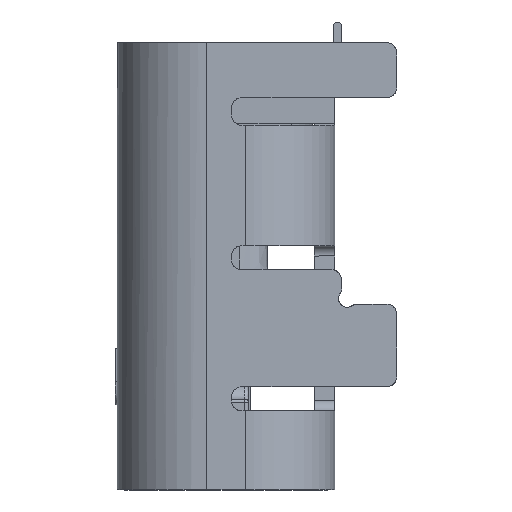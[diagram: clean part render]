
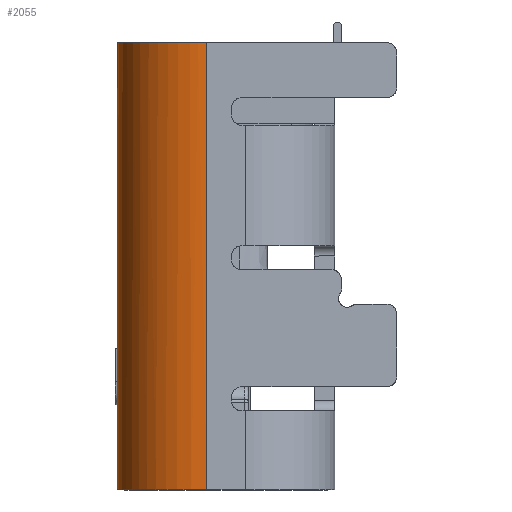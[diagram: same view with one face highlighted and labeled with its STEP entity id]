
A CAD part, left-side view. The second image highlights one B-rep face of the part: STEP entity #2055.
In plain terms, the highlighted free-form (B-spline) face has degree [1, 3] with [2, 4] control points.
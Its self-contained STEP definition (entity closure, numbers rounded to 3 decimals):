
#254 = EDGE_LOOP ( 'NONE', ( #20061, #13286, #22936, #21051 ) ) ;
#849 = EDGE_CURVE ( 'NONE', #16480, #18008, #27991, .T. ) ;
#2055 = ADVANCED_FACE ( 'NONE', ( #26947 ), #8275, .F. ) ;
#2390 = CARTESIAN_POINT ( 'NONE',  ( -1.744, 7.076, -1.098 ) ) ;
#4304 = DIRECTION ( 'NONE',  ( 0., 0., -1. ) ) ;
#4670 = CARTESIAN_POINT ( 'NONE',  ( -0.444, 8.376, -1.098 ) ) ;
#4983 = CARTESIAN_POINT ( 'NONE',  ( -0.444, 8.376, -7.598 ) ) ;
#6619 = CARTESIAN_POINT ( 'NONE',  ( -0.444, 8.376, -1.098 ) ) ;
#6715 = LINE ( 'NONE', #26425, #19379 ) ;
#7122 = CARTESIAN_POINT ( 'NONE',  ( -1.613, 7.652, -7.598 ) ) ;
#7275 = CARTESIAN_POINT ( 'NONE',  ( -1.573, 7.727, -7.598 ) ) ;
#7431 = CARTESIAN_POINT ( 'NONE',  ( -0.444, 8.376, -7.598 ) ) ;
#8275 =( BOUNDED_SURFACE ( )  B_SPLINE_SURFACE ( 1, 3, ( 
 ( #2390, #31646, #29217, #4670 ),
 ( #17103, #24369, #12089, #4983 ) ),
 .UNSPECIFIED., .F., .F., .F. ) 
 B_SPLINE_SURFACE_WITH_KNOTS ( ( 2, 2 ),
 ( 4, 4 ),
 ( 0., 1. ),
 ( 0., 1. ),
 .UNSPECIFIED. ) 
 GEOMETRIC_REPRESENTATION_ITEM ( )  RATIONAL_B_SPLINE_SURFACE ( (
 ( 1., 0.805, 0.805, 1.),
 ( 1., 0.805, 0.805, 1.) ) ) 
 REPRESENTATION_ITEM ( '' )  SURFACE ( )  );
#9074 = CARTESIAN_POINT ( 'NONE',  ( -1.483, 7.876, -1.098 ) ) ;
#9107 = CARTESIAN_POINT ( 'NONE',  ( -1.744, 7.076, -7.598 ) ) ;
#9386 = CARTESIAN_POINT ( 'NONE',  ( -0.784, 8.342, -1.098 ) ) ;
#9851 = CARTESIAN_POINT ( 'NONE',  ( -0.616, 8.376, -7.598 ) ) ;
#11512 = CARTESIAN_POINT ( 'NONE',  ( -1.02, 8.245, -1.098 ) ) ;
#12089 = CARTESIAN_POINT ( 'NONE',  ( -1.206, 8.376, -7.598 ) ) ;
#12928 = CARTESIAN_POINT ( 'NONE',  ( -1.71, 7.418, -1.098 ) ) ;
#13286 = ORIENTED_EDGE ( 'NONE', *, *, #25084, .F. ) ;
#14552 = CARTESIAN_POINT ( 'NONE',  ( -1.479, 7.868, -7.598 ) ) ;
#16480 = VERTEX_POINT ( 'NONE', #26863 ) ;
#17103 = CARTESIAN_POINT ( 'NONE',  ( -1.744, 7.076, -7.598 ) ) ;
#17300 = CARTESIAN_POINT ( 'NONE',  ( -0.787, 8.342, -7.598 ) ) ;
#17304 = CARTESIAN_POINT ( 'NONE',  ( -1.744, 7.076, -1.098 ) ) ;
#18008 = VERTEX_POINT ( 'NONE', #28049 ) ;
#19258 = CARTESIAN_POINT ( 'NONE',  ( -1.095, 8.205, -1.098 ) ) ;
#19379 = VECTOR ( 'NONE', #4304, 1000. ) ;
#19407 = CARTESIAN_POINT ( 'NONE',  ( -1.099, 8.212, -7.598 ) ) ;
#19482 = VERTEX_POINT ( 'NONE', #27687 ) ;
#19566 = CARTESIAN_POINT ( 'NONE',  ( -1.711, 7.416, -7.598 ) ) ;
#20061 = ORIENTED_EDGE ( 'NONE', *, *, #849, .F. ) ;
#20790 = B_SPLINE_CURVE_WITH_KNOTS ( 'NONE', 3,
 ( #31384, #21854, #9386, #11512, #19258, #21389, #31235, #9074, #30213, #12928, #27308, #17304 ),
 .UNSPECIFIED., .F., .F.,
 ( 4, 2, 2, 2, 2, 4 ),
 ( 0., 0.001, 0.001, 0.001, 0.002, 0.002 ),
 .UNSPECIFIED. ) ;
#21051 = ORIENTED_EDGE ( 'NONE', *, *, #23769, .F. ) ;
#21066 = DIRECTION ( 'NONE',  ( 0., 0., -1. ) ) ;
#21389 = CARTESIAN_POINT ( 'NONE',  ( -1.236, 8.111, -1.098 ) ) ;
#21854 = CARTESIAN_POINT ( 'NONE',  ( -0.616, 8.376, -1.098 ) ) ;
#22936 = ORIENTED_EDGE ( 'NONE', *, *, #26651, .T. ) ;
#23613 = VECTOR ( 'NONE', #21066, 1000. ) ;
#23769 = EDGE_CURVE ( 'NONE', #18008, #19482, #25879, .T. ) ;
#23980 = VERTEX_POINT ( 'NONE', #6619 ) ;
#24369 = CARTESIAN_POINT ( 'NONE',  ( -1.744, 7.838, -7.598 ) ) ;
#24716 = CARTESIAN_POINT ( 'NONE',  ( -1.244, 8.115, -7.598 ) ) ;
#25084 = EDGE_CURVE ( 'NONE', #23980, #16480, #20790, .T. ) ;
#25879 = B_SPLINE_CURVE_WITH_KNOTS ( 'NONE', 3,
 ( #9107, #29573, #19566, #7122, #7275, #14552, #31992, #24716, #19407, #17300, #9851, #7431 ),
 .UNSPECIFIED., .F., .F.,
 ( 4, 2, 2, 2, 2, 4 ),
 ( 0., 0.001, 0.001, 0.001, 0.002, 0.002 ),
 .UNSPECIFIED. ) ;
#26425 = CARTESIAN_POINT ( 'NONE',  ( -0.444, 8.376, -7.598 ) ) ;
#26651 = EDGE_CURVE ( 'NONE', #23980, #19482, #6715, .T. ) ;
#26863 = CARTESIAN_POINT ( 'NONE',  ( -1.744, 7.076, -1.098 ) ) ;
#26947 = FACE_OUTER_BOUND ( 'NONE', #254, .T. ) ;
#27308 = CARTESIAN_POINT ( 'NONE',  ( -1.744, 7.248, -1.098 ) ) ;
#27687 = CARTESIAN_POINT ( 'NONE',  ( -0.444, 8.376, -7.598 ) ) ;
#27991 = LINE ( 'NONE', #30751, #23613 ) ;
#28049 = CARTESIAN_POINT ( 'NONE',  ( -1.744, 7.076, -7.598 ) ) ;
#29217 = CARTESIAN_POINT ( 'NONE',  ( -1.206, 8.376, -1.098 ) ) ;
#29573 = CARTESIAN_POINT ( 'NONE',  ( -1.744, 7.248, -7.598 ) ) ;
#30213 = CARTESIAN_POINT ( 'NONE',  ( -1.58, 7.731, -1.098 ) ) ;
#30751 = CARTESIAN_POINT ( 'NONE',  ( -1.744, 7.076, -7.598 ) ) ;
#31235 = CARTESIAN_POINT ( 'NONE',  ( -1.303, 8.056, -1.098 ) ) ;
#31384 = CARTESIAN_POINT ( 'NONE',  ( -0.444, 8.376, -1.098 ) ) ;
#31646 = CARTESIAN_POINT ( 'NONE',  ( -1.744, 7.838, -1.098 ) ) ;
#31992 = CARTESIAN_POINT ( 'NONE',  ( -1.424, 7.935, -7.598 ) ) ;
